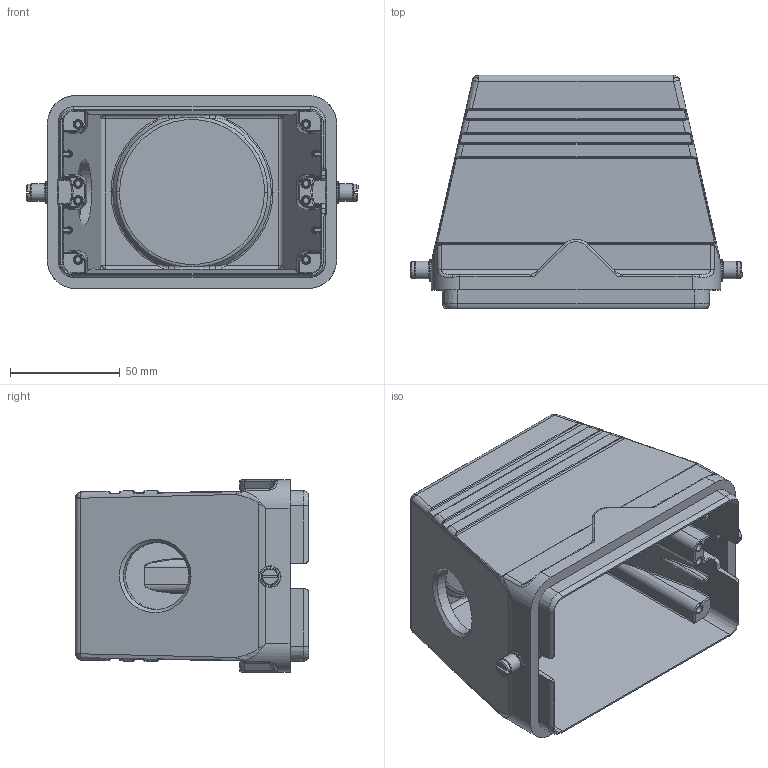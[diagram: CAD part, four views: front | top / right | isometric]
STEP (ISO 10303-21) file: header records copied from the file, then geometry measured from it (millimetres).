
FILE_DESCRIPTION (( 'STEP AP203' ), '1' );
FILE_NAME ('H48B-TS-M32.STEP', '2023-06-13T08:56:57', ( '' ), ( '' ), 'SwSTEP 2.0', 'SolidWorks 2016', '' );
FILE_SCHEMA (( 'CONFIG_CONTROL_DESIGN' ));
Length unit declared in the file: millimetre
Products named in the file (1): H48B-TS-M32
Bounding box: 151.5 x 106.5 x 88 mm (x, y, z)
Volume: 207064.5 mm3; surface area: 96954.6 mm2
Topology: 1 solids, 1 shells, 588 faces, 1503 edges, 937 vertices
Faces by surface type: bspline 204, cylinder 164, plane 151, cone 69
Full cylindrical faces by diameter (mm): 4.8 x2, 5.2 x2, 6.2 x2, 6.5 x2, 6.7 x2, 7.9 x2, 8 x2, 10 x2, 30.5 x1
Entity records: 38444 total; most frequent: CARTESIAN_POINT 26993, ORIENTED_EDGE 2862, DIRECTION 1525, EDGE_CURVE 1431, VERTEX_POINT 927, B_SPLINE_CURVE_WITH_KNOTS 782, EDGE_LOOP 672, FACE_OUTER_BOUND 605
